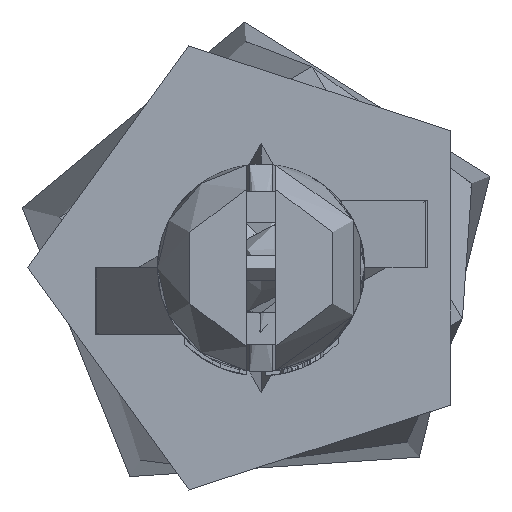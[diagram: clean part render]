
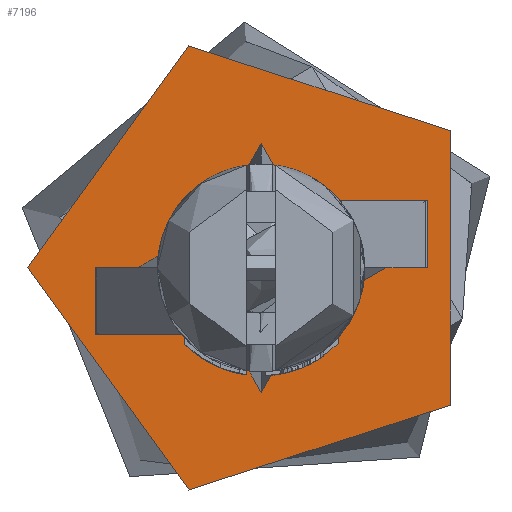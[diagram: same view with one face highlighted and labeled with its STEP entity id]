
A CAD part, front view. The second image highlights one B-rep face of the part: STEP entity #7196.
In plain terms, the highlighted planar face has unit normal (0, -1, 0) as drawn and (-1, 0, 0) by its records, which use the part's own axes.
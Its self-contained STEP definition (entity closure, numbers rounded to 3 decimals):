
#2056=PLANE('',#7631);
#2260=FACE_BOUND('',#2763,.T.);
#2337=FACE_OUTER_BOUND('',#2762,.T.);
#2762=EDGE_LOOP('',(#5133));
#2763=EDGE_LOOP('',(#5134));
#3176=CIRCLE('',#7626,3.2);
#3178=CIRCLE('',#7629,9.);
#3309=VERTEX_POINT('',#11179);
#3311=VERTEX_POINT('',#11184);
#4015=EDGE_CURVE('',#3309,#3309,#3176,.T.);
#4017=EDGE_CURVE('',#3311,#3311,#3178,.T.);
#5133=ORIENTED_EDGE('',*,*,#4017,.T.);
#5134=ORIENTED_EDGE('',*,*,#4015,.T.);
#7196=ADVANCED_FACE('',(#2337,#2260),#2056,.T.);
#7626=AXIS2_PLACEMENT_3D('',#11180,#8260,#8261);
#7629=AXIS2_PLACEMENT_3D('',#11185,#8266,#8267);
#7631=AXIS2_PLACEMENT_3D('',#11187,#8270,#8271);
#8260=DIRECTION('center_axis',(1.,0.,0.));
#8261=DIRECTION('ref_axis',(0.,-1.,0.));
#8266=DIRECTION('center_axis',(-1.,0.,0.));
#8267=DIRECTION('ref_axis',(0.,-1.,0.));
#8270=DIRECTION('center_axis',(-1.,0.,0.));
#8271=DIRECTION('ref_axis',(0.,0.,1.));
#11179=CARTESIAN_POINT('',(0.,3.2,0.));
#11180=CARTESIAN_POINT('Origin',(0.,0.,0.));
#11184=CARTESIAN_POINT('',(0.,9.,0.));
#11185=CARTESIAN_POINT('Origin',(0.,0.,0.));
#11187=CARTESIAN_POINT('Origin',(0.,0.,0.));
